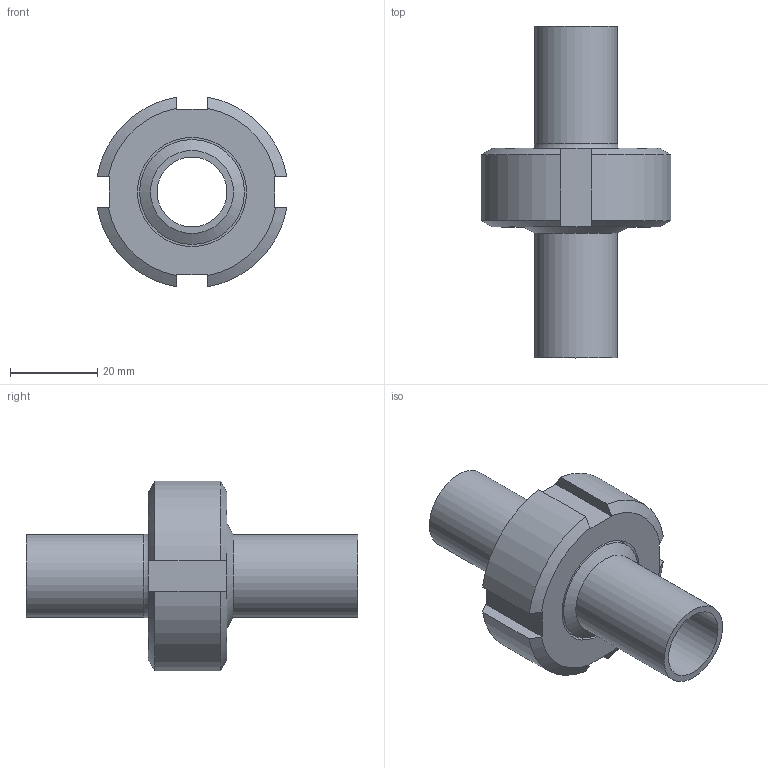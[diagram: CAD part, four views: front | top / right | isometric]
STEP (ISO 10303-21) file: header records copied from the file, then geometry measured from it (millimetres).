
FILE_DESCRIPTION(/* description */ ('Aseptik_Rohrverbindung_DIN 11864-1-A_19x1,50_L76'),/* implementation_level */ '2;1');
FILE_NAME(/* name */ 'L:\Normteile\N0024 - Rohrverbindungen\N0024_002 - DIN11864\N0024_002_001 - geschraubt\N0024_002_001\Step Marketing\DIN11864-1-A_19x1,50_L76.stp',/* time_stamp */ '2021-08-31T09:44:09+02:00',/* author */ ('Csasse'),/* organization */ ('Dockweiler AG'),/* preprocessor_version */ 'ST-DEVELOPER v18',/* originating_system */ 'Autodesk Inventor 2020',/* authorisation */ '');
FILE_SCHEMA (('AUTOMOTIVE_DESIGN { 1 0 10303 214 3 1 1 }'));
Length unit declared in the file: millimetre
Products named in the file (5): N0024_002_001_30; N0003_007_001_02; N0003_007_002_01; N0005_005_002_001_01; N0009_009_12
Assembly tree (4 placements, depth 2):
  N0024_002_001_30
    N0003_007_001_02
    N0003_007_002_01
    N0005_005_002_001_01
    N0009_009_12
Bounding box: 43.44 x 76 x 43.44 mm (x, y, z)
Volume: 27759.2 mm3; surface area: 18590.8 mm2
Topology: 4 solids, 4 shells, 66 faces, 192 edges, 138 vertices
Faces by surface type: plane 24, cone 16, cylinder 14, torus 12
Full cylindrical faces by diameter (mm): 16 x2, 19 x2, 24 x1, 25 x1, 27.9 x1, 28 x1, 30.825 x1, 34.318 x1
Entity records: 2538 total; most frequent: DIRECTION 444, CARTESIAN_POINT 437, ORIENTED_EDGE 384, AXIS2_PLACEMENT_3D 193, EDGE_CURVE 192, VERTEX_POINT 138, CIRCLE 118, EDGE_LOOP 78
